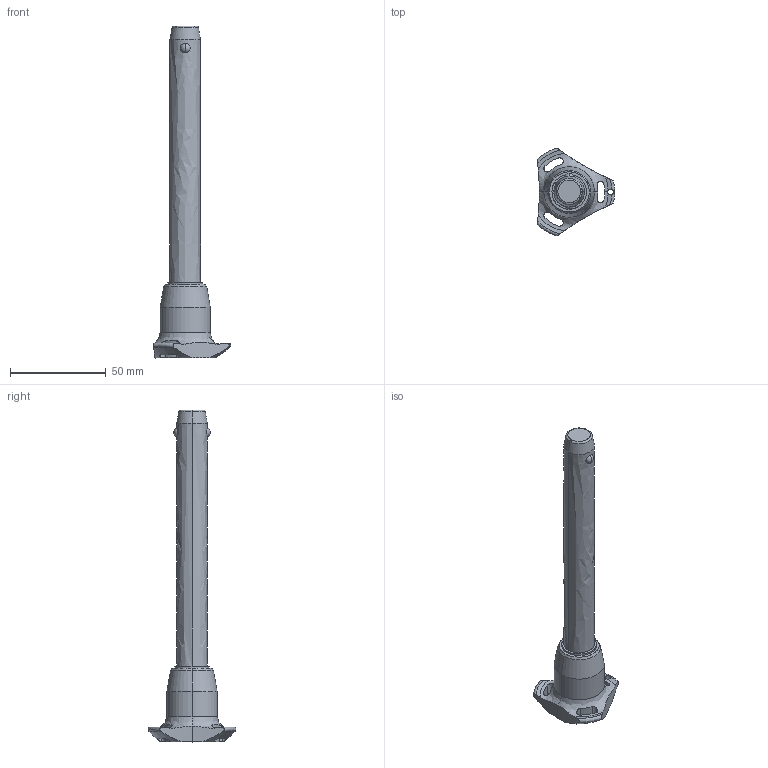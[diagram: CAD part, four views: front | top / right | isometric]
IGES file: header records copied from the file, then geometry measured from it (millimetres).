
Start section: SolidWorks IGES file using analytic representation for surfaces
Global section: file name: C:\Users\ianosborn\Desktop\QR1734_v2\QR1734_v2_20251113_IGES\QR1734.M16-120-S.igs; native system: SolidWorks 2019; preprocessor: SolidWorks 2019; author: IanOsborn; date: 251112.143829; units: millimetre
Bounding box: 40.5 x 45.88 x 173.7 mm (x, y, z)
Surface area: 12690.4 mm2 (no closed solid volume)
Topology: 0 solids, 0 shells, 65 faces, 1379 edges, 1375 vertices
Faces by surface type: revolution 50, bspline 15
